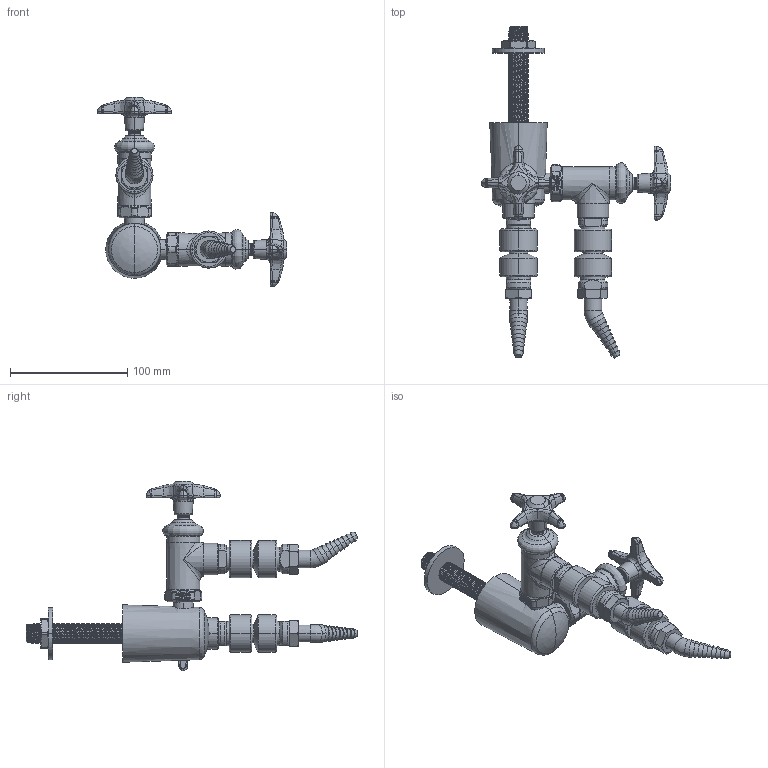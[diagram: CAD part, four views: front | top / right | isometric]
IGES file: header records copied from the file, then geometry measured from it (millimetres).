
Start section:  PTC IGES file: LWV2-C51-20.igs
Global section: file name: LWV2-C51-20.igs; native system: Creo Parametric by PTC Inc.; preprocessor: 2014500; author: usch_engrender; organization: Unknown; date: 20151113.124232; units: inch
Bounding box: 161.59 x 283.24 x 161.59 mm (x, y, z)
Volume: 382496 mm3; surface area: 71995 mm2
Topology: 1 solids, 4 shells, 1123 faces, 2642 edges, 1573 vertices
Faces by surface type: bspline 589, revolution 534
